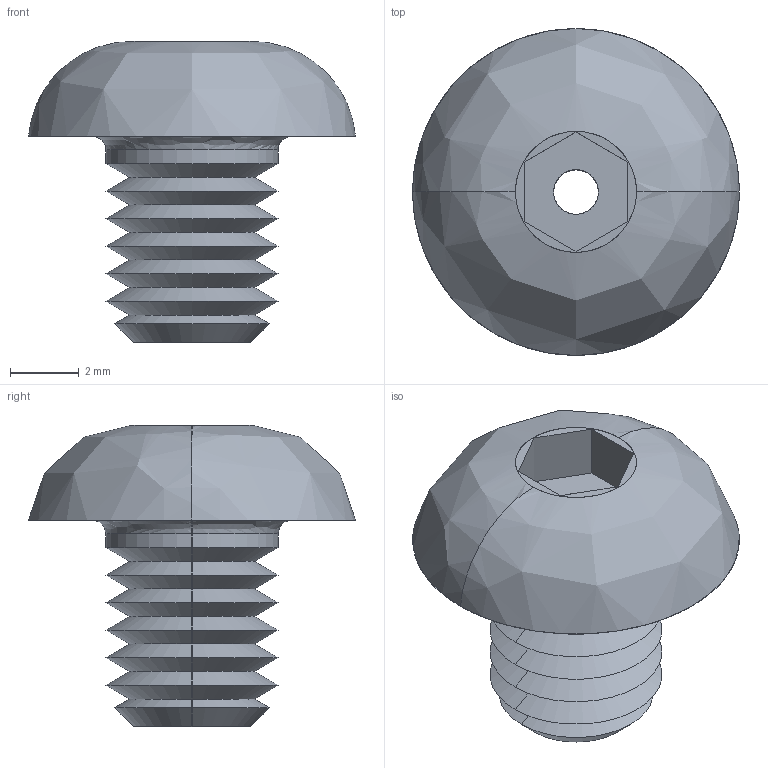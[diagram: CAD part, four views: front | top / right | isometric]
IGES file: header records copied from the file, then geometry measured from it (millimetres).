
Start section: SolidWorks IGES file using analytic representation for surfaces
Global section: file name: C:\Users\liam_\OneDrive\Documents\WORK\Work for WixRoyd\Job Files\J-00019 - Matt Davis CAD Checking\04. CAD Drawings\automotion20190605\P0094_v2\P0094_v2_20190712_IGES\P0094.050-006-A2.igs; native system: SolidWorks 2017; preprocessor: SolidWorks 2017; author: liam_; date: 190712.175316; units: millimetre
Bounding box: 9.5 x 9.5 x 8.75 mm (x, y, z)
Surface area: 359.2 mm2 (no closed solid volume)
Topology: 0 solids, 0 shells, 44 faces, 332 edges, 332 vertices
Faces by surface type: revolution 30, bspline 14
